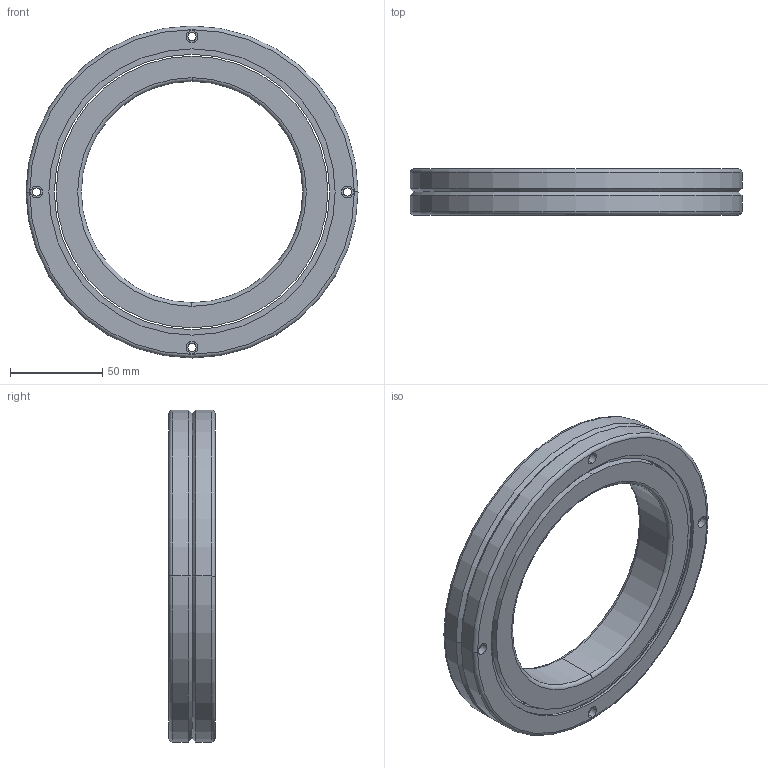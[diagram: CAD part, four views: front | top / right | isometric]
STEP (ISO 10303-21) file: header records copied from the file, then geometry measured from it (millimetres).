
FILE_DESCRIPTION((''),'2;1');
FILE_NAME('RB12025','2015-07-18T',('Administrator'),(''),'PRO/ENGINEER BY PARAMETRIC TECHNOLOGY CORPORATION, 2010180','PRO/ENGINEER BY PARAMETRIC TECHNOLOGY CORPORATION, 2010180','');
FILE_SCHEMA(('AUTOMOTIVE_DESIGN_CC2 { 1 2 10303 214 -1 1 5 2 }'));
Length unit declared in the file: millimetre
Products named in the file (1): RB12025
Bounding box: 180 x 25 x 180 mm (x, y, z)
Volume: 287898 mm3; surface area: 81400.7 mm2
Topology: 2 solids, 2 shells, 82 faces, 172 edges, 106 vertices
Faces by surface type: cylinder 46, plane 16, cone 12, torus 8
Entity records: 2393 total; most frequent: DIRECTION 450, CARTESIAN_POINT 360, ORIENTED_EDGE 344, AXIS2_PLACEMENT_3D 196, EDGE_CURVE 172, CIRCLE 114, VERTEX_POINT 106, EDGE_LOOP 106
